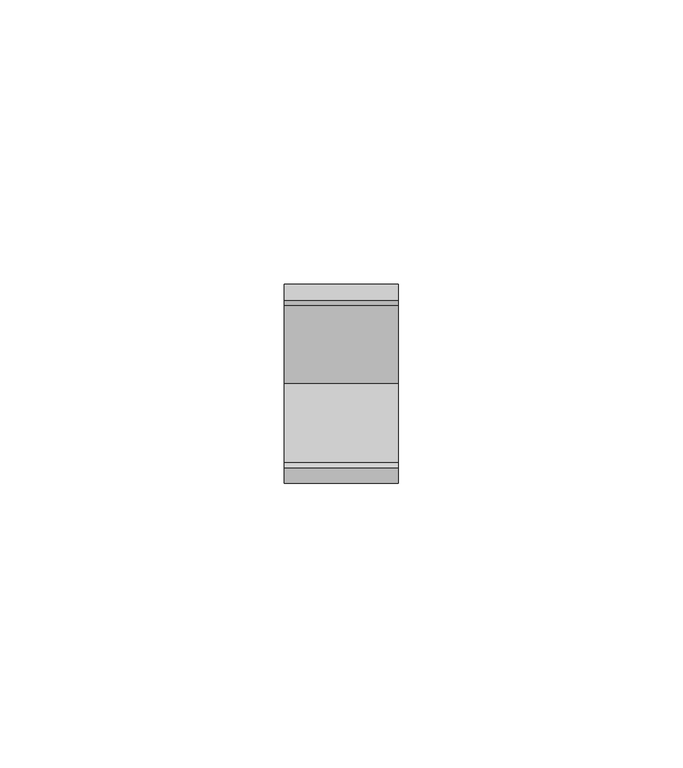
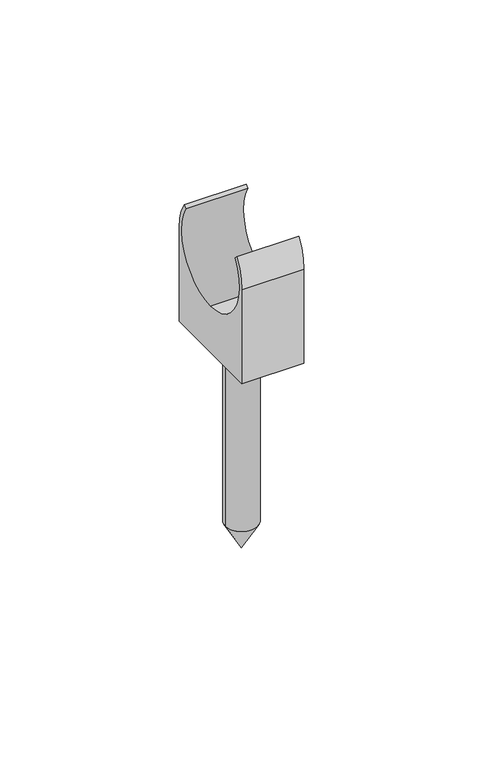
"""IFC4 building model written with IfcOpenShell, lengths in millimetres: cable carrier fitting geometry, Держатель с защелкой и дюбелем CT : CTA10D-CT32-K41-050."""

from ifc_helpers import new_model, si_unit, point, frame, origin, origin_2d, place, context, project, spatial, polyline, circle_curve, trimmed, segment, composite_curve, outline, extrude, source, transform, mapped, element, save
from ifc_brep_helpers import plane_surface, cylinder_surface, revolved_surface, advanced_brep


def cable_carrier_fitting_05e0a0bb(model_context):
    return source(origin(), model_context, "Body", "SolidModel", [
        advanced_brep(
        [(0.0, 0.0, -32.0), (5.2073093, 0.0, -32.0), (-5.2073093, 0.0, -32.0), (-5.2073093, 0.0, -92.9806758), (5.2073093, 0.0, -92.9806758), (0.0, 0.0, -102.0)],
        [
            (0, 1),
            (1, 2, circle_curve(frame((0.0, 0.0, -32.0), z_axis=(0.0, 0.0, 1.0), x_axis=(1.0, 0.0, 0.0)), 5.2073093)),
            (2, 0),
            (2, 1, circle_curve(frame((0.0, 0.0, -32.0), z_axis=(0.0, 0.0, 1.0), x_axis=(1.0, 0.0, 0.0)), 5.2073093)),
            (3, 4, circle_curve(frame((0.0, 0.0, -92.9806758), z_axis=(0.0, 0.0, -1.0), x_axis=(1.0, 0.0, 0.0)), 5.2073093)),
            (4, 5),
            (5, 3),
            (4, 3, circle_curve(frame((0.0, 0.0, -92.9806758), z_axis=(0.0, 0.0, -1.0), x_axis=(1.0, 0.0, 0.0)), 5.2073093)),
            (1, 4),
            (3, 2),
        ],
        [
            plane_surface(frame((0.0, 0.0, -32.0), z_axis=(0.0, 0.0, 1.0), x_axis=(1.0, 0.0, 0.0))),
            revolved_surface(polyline([(0.0, 0.0, -102.0), (5.2073093, 0.0, -92.9806758)]), (0.0, 0.0, 2182.3150031), (0.0, 0.0, 1.0)),
            cylinder_surface(frame((0.0, 0.0, 2182.3150031), z_axis=(0.0, 0.0, 1.0), x_axis=(1.0, 0.0, 0.0)), 5.2073093),
        ],
        [
            (0, [[1, 2, 3]]),
            (0, [[-3, 4, -1]]),
            (1, [[5, 6, 7]]),
            (1, [[8, -7, -6]]),
            (2, [[-2, 9, -5, 10]]),
            (2, [[-4, -10, -8, -9]]),
        ],
    ),
        extrude(outline(composite_curve([segment(trimmed(circle_curve(origin_2d(), 16.2678513), [point((0.0, -16.2678513))], [point((13.8243712, 8.5749489))], True, "CARTESIAN"), True, "CONTINUOUS"), segment(polyline([(13.8243712, 8.5749489), (14.7175144, 9.4680922)]), True, "CONTINUOUS"), segment(trimmed(circle_curve(origin_2d(), 17.5), [point((14.7175144, 9.4680922))], [point((17.5, 0.0))], False, "CARTESIAN"), True, "CONTINUOUS"), segment(polyline([(17.5, 0.0), (17.5, -32.0), (-17.5, -32.0), (-17.5, 0.0)]), True, "CONTINUOUS"), segment(trimmed(circle_curve(origin_2d(), 17.5), [point((-17.5, 0.0))], [point((-14.7175144, 9.4680922))], False, "CARTESIAN"), True, "CONTINUOUS"), segment(polyline([(-14.7175144, 9.4680922), (-13.8243712, 8.5749489)]), True, "CONTINUOUS"), segment(trimmed(circle_curve(origin_2d(), 16.2678513), [point((-13.8243712, 8.5749489))], [point((0.0, -16.2678513))], True, "CARTESIAN"), True, "CONTINUOUS")], self_intersect=False)), frame((-10.0, 0.0, 0.0), z_axis=(1.0, 0.0, 0.0), x_axis=(0.0, 1.0, 0.0)), (0.0, 0.0, 1.0), 20.0),
    ])


if __name__ == "__main__":
    model = new_model("IFC4")
    model_context = context("Model", 3, world=origin())
    ifc_project = project(units=[si_unit("LENGTHUNIT", "METRE", prefix="MILLI")], contexts=[model_context])
    site = spatial("IfcSite", under=ifc_project)
    building = spatial("IfcBuilding", under=site)
    placement = place(None, origin())
    cable_carrier_fitting_shape = cable_carrier_fitting_05e0a0bb(model_context)
    element("IfcCableCarrierFitting", 1, ObjectType="Держатель с защелкой и дюбелем CT : CTA10D-CT32-K41-050", at=placement, inside=building, context=model_context, shape_type="MappedRepresentation", body=[
        mapped(cable_carrier_fitting_shape, transform((0.0, 0.0, 0.0), x_axis=(1.0, 0.0, 0.0), y_axis=(0.0, 1.0, 0.0), z_axis=(0.0, 0.0, 1.0))),
    ])
    save(model, "model.ifc")
